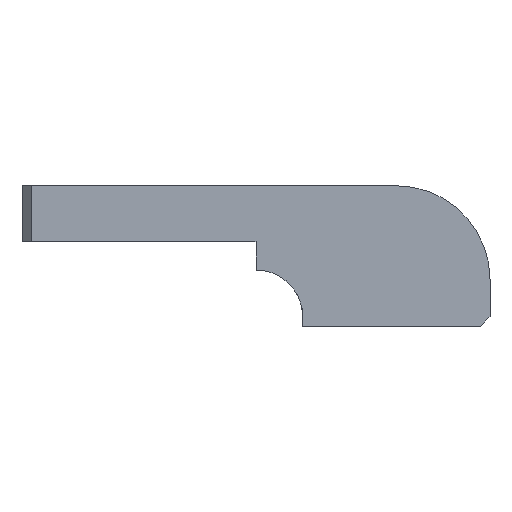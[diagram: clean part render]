
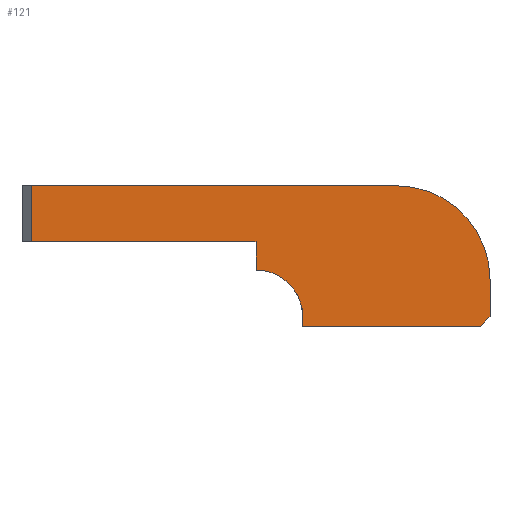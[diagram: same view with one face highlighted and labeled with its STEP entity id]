
A CAD part, front view. The second image highlights one B-rep face of the part: STEP entity #121.
In plain terms, the highlighted planar face has unit normal (0, -1, 0).
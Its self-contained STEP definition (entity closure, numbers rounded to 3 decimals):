
#6 = CARTESIAN_POINT ( 'NONE',  ( 30., 0., -2. ) ) ;
#24 = VECTOR ( 'NONE', #1269, 1000. ) ;
#45 = AXIS2_PLACEMENT_3D ( 'NONE', #96, #785, #190 ) ;
#80 = CARTESIAN_POINT ( 'NONE',  ( 50., 0., 4. ) ) ;
#96 = CARTESIAN_POINT ( 'NONE',  ( 25., 0., -10. ) ) ;
#101 = LINE ( 'NONE', #399, #332 ) ;
#121 = ADVANCED_FACE ( 'NONE', ( #204 ), #836, .T. ) ;
#163 = DIRECTION ( 'NONE',  ( 0., 0., -1. ) ) ;
#190 = DIRECTION ( 'NONE',  ( 0., 0., -1. ) ) ;
#203 = VECTOR ( 'NONE', #950, 1000. ) ;
#204 = FACE_OUTER_BOUND ( 'NONE', #1134, .T. ) ;
#265 = VERTEX_POINT ( 'NONE', #866 ) ;
#287 = ORIENTED_EDGE ( 'NONE', *, *, #1117, .T. ) ;
#290 = DIRECTION ( 'NONE',  ( -1., 0., 0. ) ) ;
#291 = ORIENTED_EDGE ( 'NONE', *, *, #870, .F. ) ;
#298 = DIRECTION ( 'NONE',  ( 0., 0., 1. ) ) ;
#310 = VERTEX_POINT ( 'NONE', #1051 ) ;
#332 = VECTOR ( 'NONE', #298, 1000. ) ;
#347 = VERTEX_POINT ( 'NONE', #1047 ) ;
#360 = LINE ( 'NONE', #449, #1056 ) ;
#361 = VECTOR ( 'NONE', #290, 1000. ) ;
#399 = CARTESIAN_POINT ( 'NONE',  ( 25., 0., -2. ) ) ;
#415 = ORIENTED_EDGE ( 'NONE', *, *, #1027, .T. ) ;
#417 = CARTESIAN_POINT ( 'NONE',  ( 1., 0., 4. ) ) ;
#446 = CARTESIAN_POINT ( 'NONE',  ( 1., 0., 4. ) ) ;
#447 = EDGE_CURVE ( 'NONE', #903, #310, #1161, .T. ) ;
#449 = CARTESIAN_POINT ( 'NONE',  ( 57., 0., -3. ) ) ;
#461 = EDGE_CURVE ( 'NONE', #694, #347, #626, .T. ) ;
#502 = LINE ( 'NONE', #638, #203 ) ;
#504 = EDGE_CURVE ( 'NONE', #903, #1190, #101, .T. ) ;
#544 = DIRECTION ( 'NONE',  ( 0., 0., -1. ) ) ;
#550 = LINE ( 'NONE', #1165, #1275 ) ;
#573 = ORIENTED_EDGE ( 'NONE', *, *, #1292, .T. ) ;
#579 = DIRECTION ( 'NONE',  ( 0., -1., 0. ) ) ;
#624 = CARTESIAN_POINT ( 'NONE',  ( 49., 0., -11. ) ) ;
#626 = LINE ( 'NONE', #1290, #361 ) ;
#638 = CARTESIAN_POINT ( 'NONE',  ( 30., 0., -11. ) ) ;
#639 = CARTESIAN_POINT ( 'NONE',  ( 50., 0., 4. ) ) ;
#643 = ORIENTED_EDGE ( 'NONE', *, *, #1132, .F. ) ;
#670 = ORIENTED_EDGE ( 'NONE', *, *, #447, .T. ) ;
#678 = CARTESIAN_POINT ( 'NONE',  ( 50., 0., -10. ) ) ;
#686 = VECTOR ( 'NONE', #1268, 1000. ) ;
#687 = AXIS2_PLACEMENT_3D ( 'NONE', #639, #1242, #544 ) ;
#694 = VERTEX_POINT ( 'NONE', #624 ) ;
#697 = CARTESIAN_POINT ( 'NONE',  ( 40., 0., 4. ) ) ;
#714 = LINE ( 'NONE', #80, #686 ) ;
#750 = ORIENTED_EDGE ( 'NONE', *, *, #978, .T. ) ;
#766 = VERTEX_POINT ( 'NONE', #417 ) ;
#780 = ORIENTED_EDGE ( 'NONE', *, *, #461, .F. ) ;
#785 = DIRECTION ( 'NONE',  ( 0., 1., 0. ) ) ;
#787 = CARTESIAN_POINT ( 'NONE',  ( 25., 0., -5. ) ) ;
#836 = PLANE ( 'NONE',  #687 ) ;
#838 = CARTESIAN_POINT ( 'NONE',  ( 25., 0., -2. ) ) ;
#842 = LINE ( 'NONE', #6, #897 ) ;
#862 = VERTEX_POINT ( 'NONE', #697 ) ;
#866 = CARTESIAN_POINT ( 'NONE',  ( 1., 0., -2. ) ) ;
#870 = EDGE_CURVE ( 'NONE', #1190, #265, #842, .T. ) ;
#876 = CIRCLE ( 'NONE', #1013, 10. ) ;
#897 = VECTOR ( 'NONE', #992, 1000. ) ;
#903 = VERTEX_POINT ( 'NONE', #787 ) ;
#950 = DIRECTION ( 'NONE',  ( 0., 0., 1. ) ) ;
#978 = EDGE_CURVE ( 'NONE', #1129, #862, #876, .T. ) ;
#981 = LINE ( 'NONE', #446, #24 ) ;
#992 = DIRECTION ( 'NONE',  ( -1., 0., 0. ) ) ;
#1013 = AXIS2_PLACEMENT_3D ( 'NONE', #1280, #579, #1176 ) ;
#1027 = EDGE_CURVE ( 'NONE', #862, #766, #714, .T. ) ;
#1040 = CARTESIAN_POINT ( 'NONE',  ( 50., 0., -6. ) ) ;
#1047 = CARTESIAN_POINT ( 'NONE',  ( 30., 0., -11. ) ) ;
#1051 = CARTESIAN_POINT ( 'NONE',  ( 30., 0., -10. ) ) ;
#1056 = VECTOR ( 'NONE', #1151, 1000. ) ;
#1066 = EDGE_CURVE ( 'NONE', #1129, #1126, #550, .T. ) ;
#1117 = EDGE_CURVE ( 'NONE', #694, #1126, #360, .T. ) ;
#1126 = VERTEX_POINT ( 'NONE', #678 ) ;
#1129 = VERTEX_POINT ( 'NONE', #1040 ) ;
#1132 = EDGE_CURVE ( 'NONE', #347, #310, #502, .T. ) ;
#1134 = EDGE_LOOP ( 'NONE', ( #291, #1287, #670, #643, #780, #287, #1179, #750, #415, #573 ) ) ;
#1151 = DIRECTION ( 'NONE',  ( 0.707, 0., 0.707 ) ) ;
#1161 = CIRCLE ( 'NONE', #45, 5. ) ;
#1165 = CARTESIAN_POINT ( 'NONE',  ( 50., 0., 4. ) ) ;
#1176 = DIRECTION ( 'NONE',  ( 0., 0., -1. ) ) ;
#1179 = ORIENTED_EDGE ( 'NONE', *, *, #1066, .F. ) ;
#1190 = VERTEX_POINT ( 'NONE', #838 ) ;
#1242 = DIRECTION ( 'NONE',  ( 0., -1., 0. ) ) ;
#1268 = DIRECTION ( 'NONE',  ( -1., 0., 0. ) ) ;
#1269 = DIRECTION ( 'NONE',  ( 0., 0., -1. ) ) ;
#1275 = VECTOR ( 'NONE', #163, 1000. ) ;
#1280 = CARTESIAN_POINT ( 'NONE',  ( 40., 0., -6. ) ) ;
#1287 = ORIENTED_EDGE ( 'NONE', *, *, #504, .F. ) ;
#1290 = CARTESIAN_POINT ( 'NONE',  ( 50., 0., -11. ) ) ;
#1292 = EDGE_CURVE ( 'NONE', #766, #265, #981, .T. ) ;
